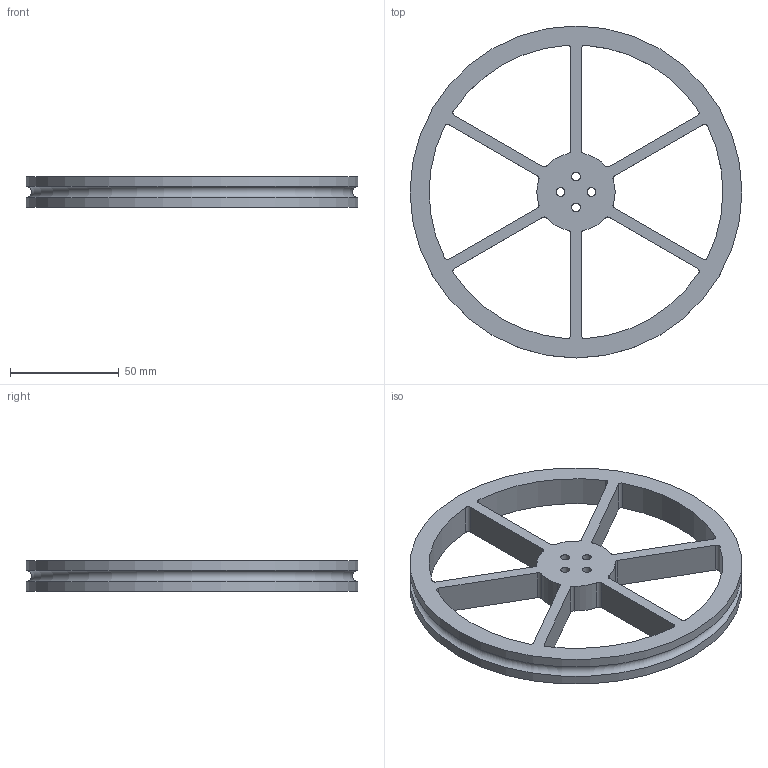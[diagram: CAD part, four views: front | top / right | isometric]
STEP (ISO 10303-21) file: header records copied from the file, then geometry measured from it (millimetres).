
FILE_DESCRIPTION(/* description */ (''),/* implementation_level */ '2;1');
FILE_NAME(/* name */ 'C:\Users\EI-09\Downloads\CAD\op1\ImpresionAgusto\Llanta.stp',/* time_stamp */ '2024-05-08T14:53:00-05:00',/* author */ ('EI-09'),/* organization */ (''),/* preprocessor_version */ 'ST-DEVELOPER v19',/* originating_system */ 'Autodesk Inventor 2023',/* authorisation */ '');
FILE_SCHEMA (('AUTOMOTIVE_DESIGN { 1 0 10303 214 3 1 1 }'));
Length unit declared in the file: millimetre
Products named in the file (1): Llana
Bounding box: 152.6 x 152.6 x 14 mm (x, y, z)
Volume: 84911.2 mm3; surface area: 36441.2 mm2
Topology: 1 solids, 1 shells, 57 faces, 165 edges, 110 vertices
Faces by surface type: cylinder 42, plane 14, torus 1
Full cylindrical faces by diameter (mm): 4 x4, 152.6 x2
Entity records: 2009 total; most frequent: DIRECTION 368, CARTESIAN_POINT 333, ORIENTED_EDGE 330, EDGE_CURVE 165, AXIS2_PLACEMENT_3D 145, VERTEX_POINT 110, CIRCLE 87, LINE 78
